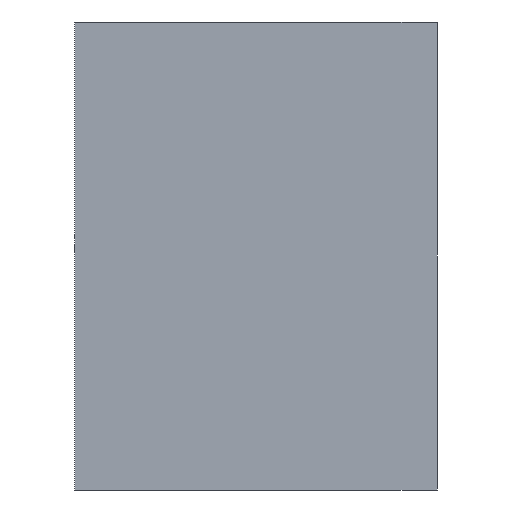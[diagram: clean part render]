
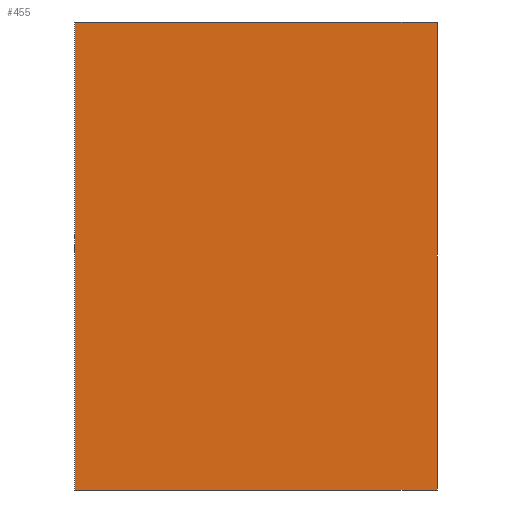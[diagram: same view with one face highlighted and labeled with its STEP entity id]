
A CAD part, front view. The second image highlights one B-rep face of the part: STEP entity #455.
In plain terms, the highlighted planar face has unit normal (0, -1, 0).
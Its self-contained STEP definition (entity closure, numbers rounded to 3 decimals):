
#105=CARTESIAN_POINT('',(0.,0.,0.));
#106=DIRECTION('',(0.,-1.,0.));
#107=DIRECTION('',(0.768,0.,-0.64));
#108=AXIS2_PLACEMENT_3D('',#105,#106,#107);
#132=CARTESIAN_POINT('',(0.,0.,0.));
#133=DIRECTION('',(0.,-1.,0.));
#134=DIRECTION('',(0.769,0.,0.639));
#135=AXIS2_PLACEMENT_3D('',#132,#133,#134);
#145=DIRECTION('',(1.,0.,0.));
#146=VECTOR('',#145,1.2);
#147=CARTESIAN_POINT('',(-0.605,0.,0.775));
#148=LINE('',#147,#146);
#149=DIRECTION('',(0.,0.,1.));
#150=VECTOR('',#149,0.279);
#151=CARTESIAN_POINT('',(0.595,0.,0.496));
#152=LINE('',#151,#150);
#153=DIRECTION('',(0.,0.,-1.));
#154=VECTOR('',#153,0.99);
#155=CARTESIAN_POINT('',(0.596,0.,0.495));
#156=LINE('',#155,#154);
#157=DIRECTION('',(0.,0.,1.));
#158=VECTOR('',#157,0.279);
#159=CARTESIAN_POINT('',(0.595,0.,-0.775));
#160=LINE('',#159,#158);
#161=DIRECTION('',(-1.,0.,0.));
#162=VECTOR('',#161,1.2);
#163=CARTESIAN_POINT('',(0.595,0.,-0.775));
#164=LINE('',#163,#162);
#165=DIRECTION('',(0.,0.,-1.));
#166=VECTOR('',#165,1.55);
#167=CARTESIAN_POINT('',(-0.605,0.,0.775));
#168=LINE('',#167,#166);
#199=CARTESIAN_POINT('',(0.596,0.,0.495));
#200=CARTESIAN_POINT('',(0.596,0.,-0.495));
#201=VERTEX_POINT('',#199);
#202=VERTEX_POINT('',#200);
#203=CARTESIAN_POINT('',(-0.605,0.,0.775));
#204=CARTESIAN_POINT('',(-0.605,0.,-0.775));
#205=VERTEX_POINT('',#203);
#206=VERTEX_POINT('',#204);
#211=CARTESIAN_POINT('',(0.595,0.,-0.775));
#213=VERTEX_POINT('',#211);
#215=CARTESIAN_POINT('',(0.595,0.,0.775));
#217=VERTEX_POINT('',#215);
#220=CARTESIAN_POINT('',(0.595,0.,-0.496));
#222=VERTEX_POINT('',#220);
#224=CARTESIAN_POINT('',(0.595,0.,0.496));
#226=VERTEX_POINT('',#224);
#437=CARTESIAN_POINT('',(0.,0.,0.));
#438=DIRECTION('',(0.,-1.,0.));
#439=DIRECTION('',(0.,0.,1.));
#440=AXIS2_PLACEMENT_3D('',#437,#438,#439);
#441=PLANE('',#440);
#443=ORIENTED_EDGE('',*,*,#442,.T.);
#444=ORIENTED_EDGE('',*,*,#415,.F.);
#445=ORIENTED_EDGE('',*,*,#390,.F.);
#447=ORIENTED_EDGE('',*,*,#446,.T.);
#448=ORIENTED_EDGE('',*,*,#372,.F.);
#449=ORIENTED_EDGE('',*,*,#404,.F.);
#450=ORIENTED_EDGE('',*,*,#428,.T.);
#452=ORIENTED_EDGE('',*,*,#451,.F.);
#453=EDGE_LOOP('',(#443,#444,#445,#447,#448,#449,#450,#452));
#454=FACE_OUTER_BOUND('',#453,.F.);
#455=ADVANCED_FACE('',(#454),#441,.T.);
#109=CIRCLE('',#108,0.775);
#136=CIRCLE('',#135,0.775);
#372=EDGE_CURVE('',#222,#202,#109,.T.);
#390=EDGE_CURVE('',#201,#226,#136,.T.);
#404=EDGE_CURVE('',#213,#222,#160,.T.);
#415=EDGE_CURVE('',#226,#217,#152,.T.);
#428=EDGE_CURVE('',#213,#206,#164,.T.);
#442=EDGE_CURVE('',#205,#217,#148,.T.);
#446=EDGE_CURVE('',#201,#202,#156,.T.);
#451=EDGE_CURVE('',#205,#206,#168,.T.);
